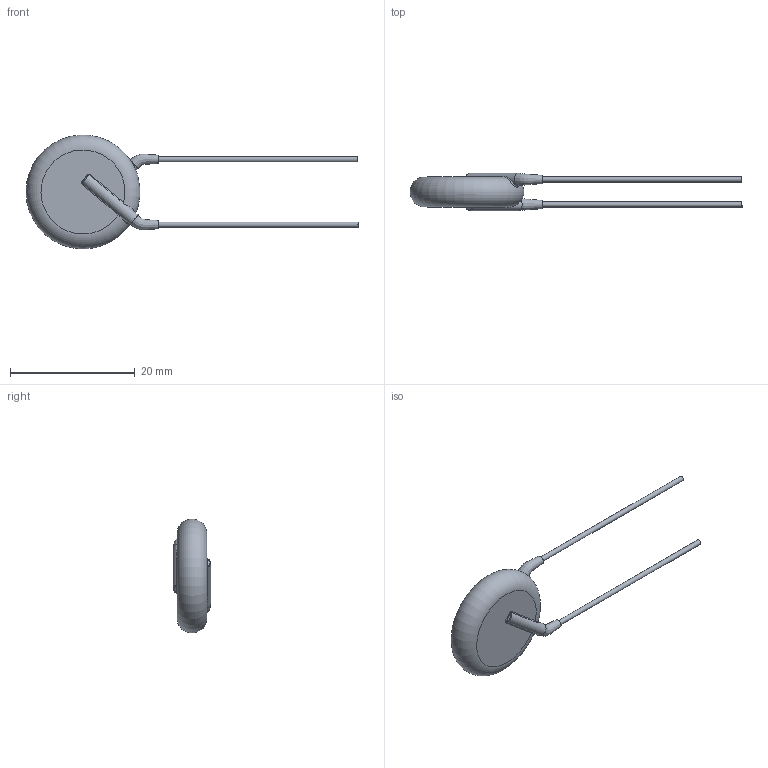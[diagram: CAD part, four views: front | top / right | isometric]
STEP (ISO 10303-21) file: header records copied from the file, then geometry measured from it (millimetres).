
FILE_DESCRIPTION(/* description */ (''),/* implementation_level */ '2;1');
FILE_NAME(/* name */ 'I:\Marketing\M6t1\3D-Models\Zchng-Werk-3\Upload for homepage\Ceramite\Y5U\440LD68-R\440LD68-R.stp',/* time_stamp */ '2016-11-10T14:58:55+01:00',/* author */ ('sheinrich'),/* organization */ (''),/* preprocessor_version */ 'ST-DEVELOPER v16.1',/* originating_system */ 'Autodesk Inventor 2016',/* authorisation */ '');
FILE_SCHEMA (('AUTOMOTIVE_DESIGN { 1 0 10303 214 3 1 1 }'));
Length unit declared in the file: millimetre
Products named in the file (1): 440LD68-R
Bounding box: 53.3 x 6 x 18.29 mm (x, y, z)
Volume: 1203.7 mm3; surface area: 904 mm2
Topology: 1 solids, 1 shells, 37 faces, 80 edges, 43 vertices
Faces by surface type: bspline 12, cylinder 10, plane 8, torus 7
Full cylindrical faces by diameter (mm): 0.81 x2, 2 x2
Entity records: 1777 total; most frequent: CARTESIAN_POINT 1020, ORIENTED_EDGE 136, DIRECTION 132, EDGE_CURVE 68, AXIS2_PLACEMENT_3D 60, EDGE_LOOP 44, VERTEX_POINT 40, STYLED_ITEM 38
